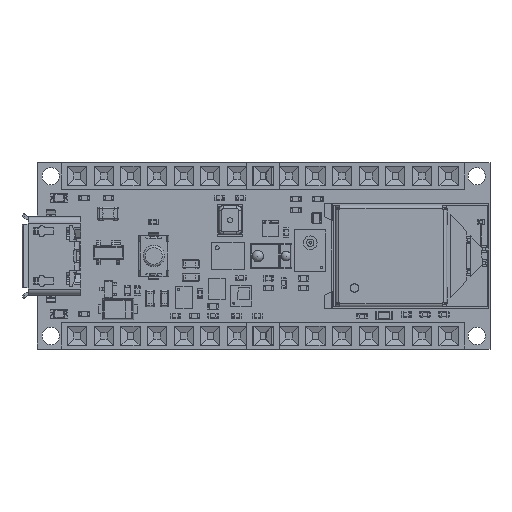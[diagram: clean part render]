
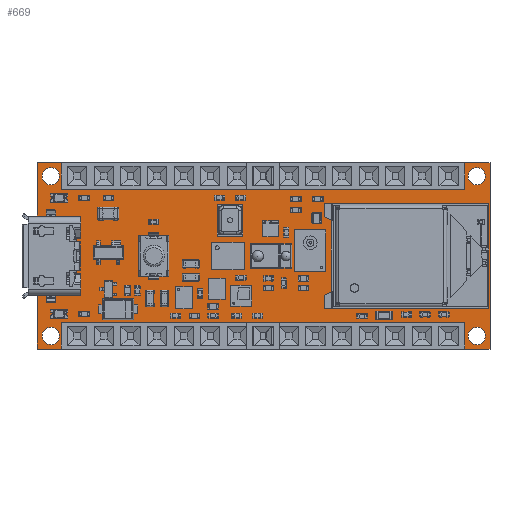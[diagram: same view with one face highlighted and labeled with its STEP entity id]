
A CAD part, top view. The second image highlights one B-rep face of the part: STEP entity #669.
In plain terms, the highlighted planar face has unit normal (0, 0, 1).
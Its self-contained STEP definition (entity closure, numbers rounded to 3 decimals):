
#268 = VERTEX_POINT('',#269);
#269 = CARTESIAN_POINT('',(43.18,0.,1.606));
#275 = EDGE_CURVE('',#268,#276,#278,.T.);
#276 = VERTEX_POINT('',#277);
#277 = CARTESIAN_POINT('',(0.,0.,1.606));
#278 = LINE('',#279,#280);
#279 = CARTESIAN_POINT('',(43.18,0.,1.606));
#280 = VECTOR('',#281,1.);
#281 = DIRECTION('',(-1.,0.,0.));
#306 = EDGE_CURVE('',#276,#307,#309,.T.);
#307 = VERTEX_POINT('',#308);
#308 = CARTESIAN_POINT('',(0.,1.,1.606));
#309 = LINE('',#310,#311);
#310 = CARTESIAN_POINT('',(0.,0.,1.606));
#311 = VECTOR('',#312,1.);
#312 = DIRECTION('',(0.,1.,0.));
#337 = EDGE_CURVE('',#307,#338,#340,.T.);
#338 = VERTEX_POINT('',#339);
#339 = CARTESIAN_POINT('',(0.,13.,1.606));
#340 = LINE('',#341,#342);
#341 = CARTESIAN_POINT('',(0.,0.,1.606));
#342 = VECTOR('',#343,1.);
#343 = DIRECTION('',(0.,1.,0.));
#368 = EDGE_CURVE('',#338,#369,#371,.T.);
#369 = VERTEX_POINT('',#370);
#370 = CARTESIAN_POINT('',(0.,17.78,1.606));
#371 = LINE('',#372,#373);
#372 = CARTESIAN_POINT('',(0.,0.,1.606));
#373 = VECTOR('',#374,1.);
#374 = DIRECTION('',(0.,1.,0.));
#399 = EDGE_CURVE('',#369,#400,#402,.T.);
#400 = VERTEX_POINT('',#401);
#401 = CARTESIAN_POINT('',(43.18,17.78,1.606));
#402 = LINE('',#403,#404);
#403 = CARTESIAN_POINT('',(0.,17.78,1.606));
#404 = VECTOR('',#405,1.);
#405 = DIRECTION('',(1.,0.,0.));
#430 = EDGE_CURVE('',#400,#431,#433,.T.);
#431 = VERTEX_POINT('',#432);
#432 = CARTESIAN_POINT('',(43.18,10.5,1.606));
#433 = LINE('',#434,#435);
#434 = CARTESIAN_POINT('',(43.18,17.78,1.606));
#435 = VECTOR('',#436,1.);
#436 = DIRECTION('',(0.,-1.,0.));
#461 = EDGE_CURVE('',#431,#462,#464,.T.);
#462 = VERTEX_POINT('',#463);
#463 = CARTESIAN_POINT('',(43.18,6.5,1.606));
#464 = LINE('',#465,#466);
#465 = CARTESIAN_POINT('',(43.18,17.78,1.606));
#466 = VECTOR('',#467,1.);
#467 = DIRECTION('',(0.,-1.,0.));
#492 = EDGE_CURVE('',#462,#268,#493,.T.);
#493 = LINE('',#494,#495);
#494 = CARTESIAN_POINT('',(43.18,17.78,1.606));
#495 = VECTOR('',#496,1.);
#496 = DIRECTION('',(0.,-1.,0.));
#516 = VERTEX_POINT('',#517);
#517 = CARTESIAN_POINT('',(2.096,1.27,1.606));
#523 = EDGE_CURVE('',#516,#516,#524,.T.);
#524 = CIRCLE('',#525,0.826);
#525 = AXIS2_PLACEMENT_3D('',#526,#527,#528);
#526 = CARTESIAN_POINT('',(1.27,1.27,1.606));
#527 = DIRECTION('',(0.,0.,1.));
#528 = DIRECTION('',(1.,0.,-0.));
#549 = VERTEX_POINT('',#550);
#550 = CARTESIAN_POINT('',(2.096,16.51,1.606));
#556 = EDGE_CURVE('',#549,#549,#557,.T.);
#557 = CIRCLE('',#558,0.826);
#558 = AXIS2_PLACEMENT_3D('',#559,#560,#561);
#559 = CARTESIAN_POINT('',(1.27,16.51,1.606));
#560 = DIRECTION('',(0.,0.,1.));
#561 = DIRECTION('',(1.,0.,-0.));
#582 = VERTEX_POINT('',#583);
#583 = CARTESIAN_POINT('',(42.736,1.27,1.606));
#589 = EDGE_CURVE('',#582,#582,#590,.T.);
#590 = CIRCLE('',#591,0.826);
#591 = AXIS2_PLACEMENT_3D('',#592,#593,#594);
#592 = CARTESIAN_POINT('',(41.91,1.27,1.606));
#593 = DIRECTION('',(0.,0.,1.));
#594 = DIRECTION('',(1.,0.,-0.));
#615 = VERTEX_POINT('',#616);
#616 = CARTESIAN_POINT('',(42.736,16.51,1.606));
#622 = EDGE_CURVE('',#615,#615,#623,.T.);
#623 = CIRCLE('',#624,0.826);
#624 = AXIS2_PLACEMENT_3D('',#625,#626,#627);
#625 = CARTESIAN_POINT('',(41.91,16.51,1.606));
#626 = DIRECTION('',(0.,0.,1.));
#627 = DIRECTION('',(1.,0.,-0.));
#669 = ADVANCED_FACE('',(#670,#680,#683,#686,#689),#692,.F.);
#670 = FACE_BOUND('',#671,.F.);
#671 = EDGE_LOOP('',(#672,#673,#674,#675,#676,#677,#678,#679));
#672 = ORIENTED_EDGE('',*,*,#275,.T.);
#673 = ORIENTED_EDGE('',*,*,#306,.T.);
#674 = ORIENTED_EDGE('',*,*,#337,.T.);
#675 = ORIENTED_EDGE('',*,*,#368,.T.);
#676 = ORIENTED_EDGE('',*,*,#399,.T.);
#677 = ORIENTED_EDGE('',*,*,#430,.T.);
#678 = ORIENTED_EDGE('',*,*,#461,.T.);
#679 = ORIENTED_EDGE('',*,*,#492,.T.);
#680 = FACE_BOUND('',#681,.F.);
#681 = EDGE_LOOP('',(#682));
#682 = ORIENTED_EDGE('',*,*,#523,.T.);
#683 = FACE_BOUND('',#684,.F.);
#684 = EDGE_LOOP('',(#685));
#685 = ORIENTED_EDGE('',*,*,#556,.T.);
#686 = FACE_BOUND('',#687,.F.);
#687 = EDGE_LOOP('',(#688));
#688 = ORIENTED_EDGE('',*,*,#589,.T.);
#689 = FACE_BOUND('',#690,.F.);
#690 = EDGE_LOOP('',(#691));
#691 = ORIENTED_EDGE('',*,*,#622,.T.);
#692 = PLANE('',#693);
#693 = AXIS2_PLACEMENT_3D('',#694,#695,#696);
#694 = CARTESIAN_POINT('',(21.59,8.89,1.606));
#695 = DIRECTION('',(-0.,-0.,-1.));
#696 = DIRECTION('',(-1.,0.,0.));
